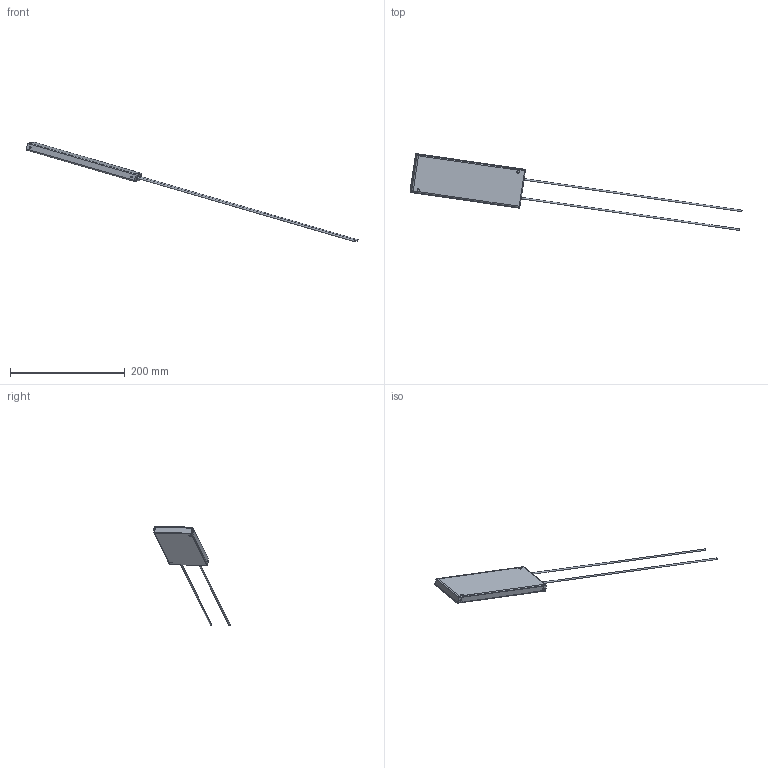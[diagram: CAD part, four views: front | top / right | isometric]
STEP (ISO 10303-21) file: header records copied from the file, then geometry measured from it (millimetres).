
FILE_DESCRIPTION(/* description */ (''),/* implementation_level */ '2;1');
FILE_NAME(/* name */ 'C:\_Vault\Dati\CATALOGO\RFX\RFX1300-600\RFX1300.stp',/* time_stamp */ '2014-03-25T19:58:19+01:00',/* author */ ('andreac'),/* organization */ (''),/* preprocessor_version */ 'ST-DEVELOPER v15.2',/* originating_system */ 'Autodesk Inventor 2014',/* authorisation */ '');
FILE_SCHEMA (('AUTOMOTIVE_DESIGN { 1 0 10303 214 3 1 1 }'));
Length unit declared in the file: millimetre
Products named in the file (1): RFX1300
Bounding box: 578.42 x 133.38 x 173.24 mm (x, y, z)
Volume: 40032.3 mm3; surface area: 75661.3 mm2
Topology: 5 solids, 5 shells, 109 faces, 270 edges, 165 vertices
Faces by surface type: plane 75, cylinder 34
Full cylindrical faces by diameter (mm): 2.7 x2, 3 x4, 4.8 x2, 5 x8, 6 x2, 7 x3
Entity records: 3217 total; most frequent: CARTESIAN_POINT 530, DIRECTION 528, ORIENTED_EDGE 484, EDGE_CURVE 238, AXIS2_PLACEMENT_3D 184, LINE 160, VECTOR 160, EDGE_LOOP 154
